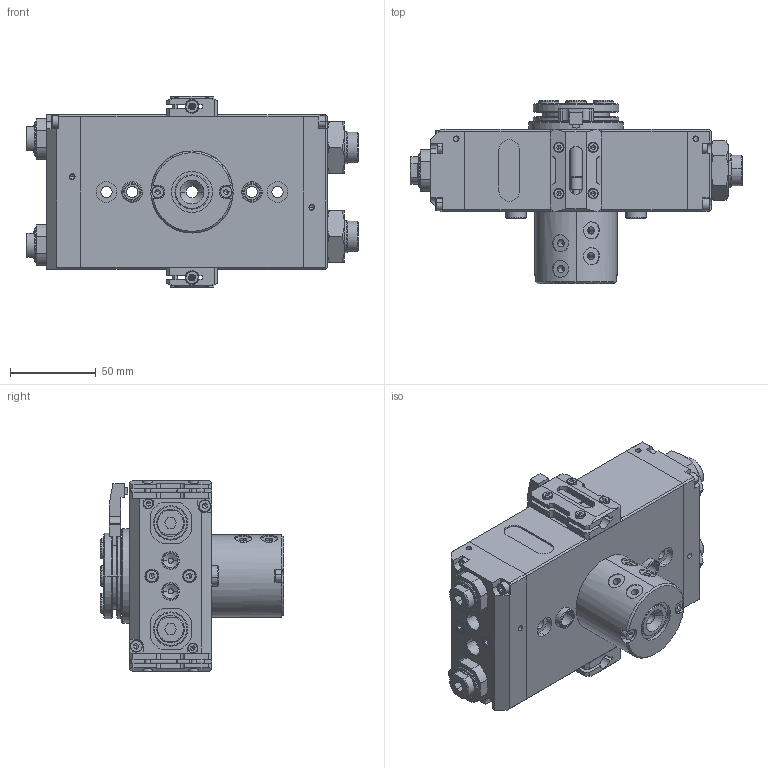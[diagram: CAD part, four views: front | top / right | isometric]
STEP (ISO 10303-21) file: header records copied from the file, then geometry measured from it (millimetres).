
FILE_DESCRIPTION (( 'STEP AP214' ), '1' );
FILE_NAME ('PFS34E-4.STEP', '2016-01-05T04:29:14', ( 'Registered User' ), ( 'Microsoft Corporation' ), 'SwSTEP 2.0', 'SolidWorks 2015', '' );
FILE_SCHEMA (( 'AUTOMOTIVE_DESIGN' ));
Length unit declared in the file: millimetre
Products named in the file (2): PFS34E-4
Bounding box: 194 x 107 x 112 mm (x, y, z)
Volume: 710100.3 mm3; surface area: 265505.9 mm2
Topology: 74 solids, 74 shells, 2914 faces, 7561 edges, 4630 vertices
Faces by surface type: cylinder 977, plane 877, torus 567, cone 391, sphere 102
Entity records: 123718 total; most frequent: CARTESIAN_POINT 21094, DIRECTION 15204, ORIENTED_EDGE 14404, EDGE_CURVE 7202, AXIS2_PLACEMENT_3D 6273, VERTEX_POINT 4477, CIRCLE 3357, EDGE_LOOP 3277
